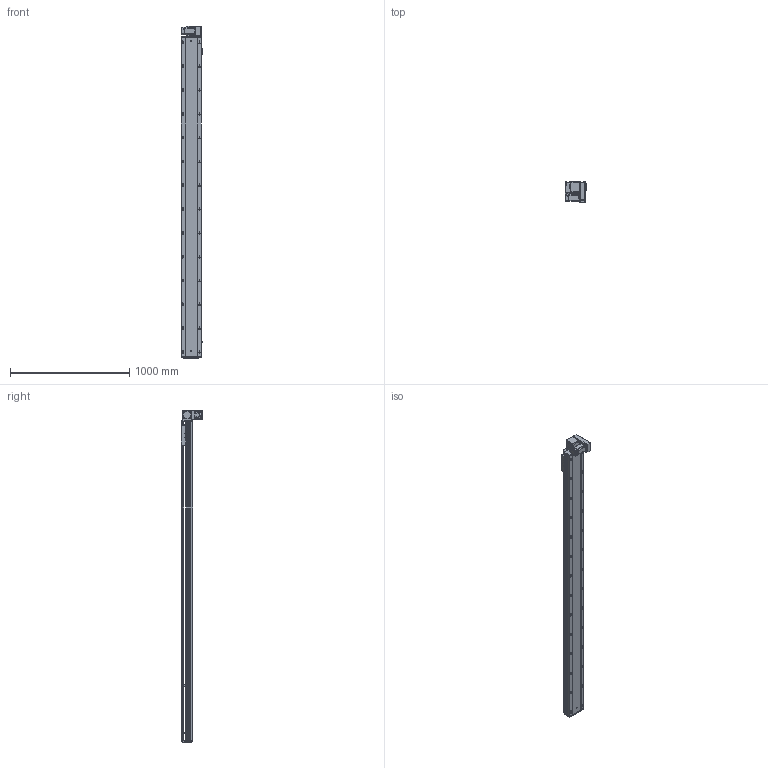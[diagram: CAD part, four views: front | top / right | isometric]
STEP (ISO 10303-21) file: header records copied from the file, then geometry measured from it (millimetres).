
FILE_DESCRIPTION (( 'STEP AP203' ), '1' );
FILE_NAME ('RY170-T-300-DR-P400W.SLDASM_2400.step', '2021-03-01T08:25:33', ( '盈信电脑' ), ( '东莞市道滘镇水果街19号' ), 'SwSTEP 2.0', 'SolidWorks 2012', '' );
FILE_SCHEMA (( 'CONFIG_CONTROL_DESIGN' ));
Length unit declared in the file: millimetre
Products named in the file (19): 15; RY170-T-300-DR-P400W.SLDASM_2400; RY170-T-呴雄粣揤踡啣; RY170-T蹟翐M4; RY170-T肮祭謫裔啣; 滅袉蝶18-10; RY120-T主同步轮轴承压盖; RY170-T肮祭湍揤踡輸2; RY170-T肮祭湍揤踡輸1; RY170肮祭謫萇儂欶; RY170外置感应片(200共用）; RY170肮祭謫ヶ裔啣; RY170翋肮祭謫釱; RY170同步轮电机安装板(400W); RY170肮祭湍臏賑輸; RY170綴裔啣; RY170-T-300肮祭謫倰第裔啣-DR_2400; 覜茼ん672; RY170-T-300肮祭謫倰第菁釱-DR_2400
Assembly tree (23 placements, depth 2):
  RY170-T-300-DR-P400W.SLDASM_2400
    RY170-T-300肮祭謫倰第菁釱-DR_2400
    RY170肮祭湍臏賑輸
    RY170-T-300肮祭謫倰第裔啣-DR_2400
    RY170綴裔啣
    覜茼ん672  x3
    RY170外置感应片(200共用）
    RY170肮祭謫ヶ裔啣
    RY170翋肮祭謫釱
    RY170同步轮电机安装板(400W)
    RY170肮祭謫萇儂欶
    RY170-T肮祭湍揤踡輸1  x2
    RY170-T肮祭湍揤踡輸2  x2
    RY120-T主同步轮轴承压盖
    RY170-T肮祭謫裔啣
    RY170-T蹟翐M4
    滅袉蝶18-10  x2
    RY170-T-呴雄粣揤踡啣
    15
Bounding box: 183.7 x 178 x 2788 mm (x, y, z)
Volume: 12751722.6 mm3; surface area: 4411665.2 mm2
Topology: 23 solids, 23 shells, 3134 faces, 8834 edges, 5621 vertices
Faces by surface type: cylinder 1494, plane 1278, cone 332, bspline 30
Entity records: 96533 total; most frequent: CARTESIAN_POINT 22792, ORIENTED_EDGE 15184, DIRECTION 14710, EDGE_CURVE 7592, AXIS2_PLACEMENT_3D 5249, VERTEX_POINT 4977, VECTOR 4212, LINE 4212
